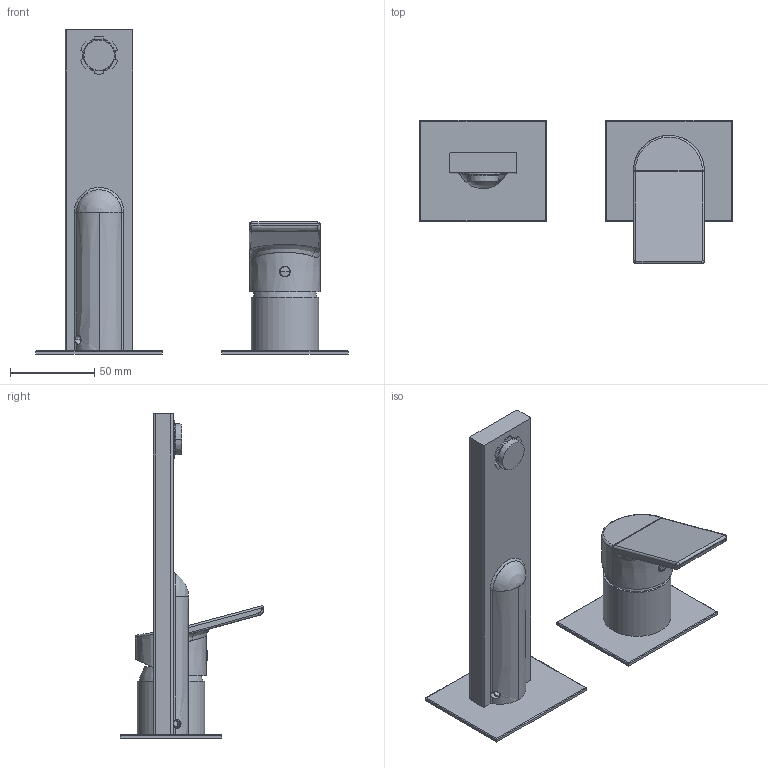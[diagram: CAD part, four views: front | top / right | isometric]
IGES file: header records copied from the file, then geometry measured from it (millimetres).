
Start section:  PTC IGES file: 74547.igs
Global section: file name: 74547.igs; native system: Creo Parametric by PTC Inc.; preprocessor: 2022014; author: carloff; organization: Unknown; date: 20250326.104410; units: millimetre
Bounding box: 185 x 85 x 192 mm (x, y, z)
Surface area: 71382.2 mm2 (no closed solid volume)
Topology: 0 solids, 0 shells, 298 faces, 1471 edges, 1464 vertices
Faces by surface type: revolution 157, bspline 141
